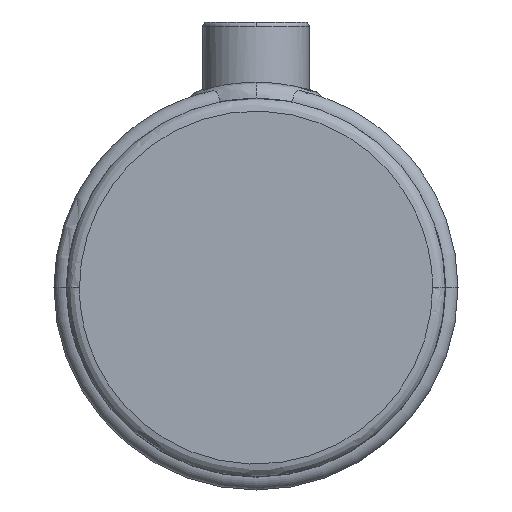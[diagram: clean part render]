
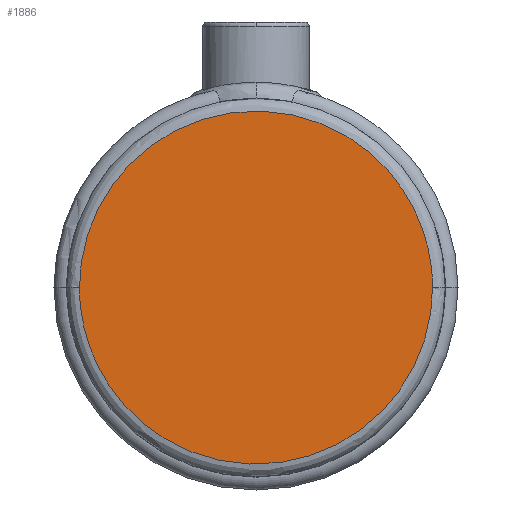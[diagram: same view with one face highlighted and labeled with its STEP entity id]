
A CAD part, top view. The second image highlights one B-rep face of the part: STEP entity #1886.
In plain terms, the highlighted planar face has unit normal (0, 0, 1).
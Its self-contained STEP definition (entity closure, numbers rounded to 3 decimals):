
#138 =( BOUNDED_CURVE ( )  B_SPLINE_CURVE ( 3, ( #1994, #10084, #6058, #1204 ),
 .UNSPECIFIED., .F., .T. ) 
 B_SPLINE_CURVE_WITH_KNOTS ( ( 4, 4 ),
 ( 0.25, 0.75 ),
 .UNSPECIFIED. ) 
 CURVE ( )  GEOMETRIC_REPRESENTATION_ITEM ( )  RATIONAL_B_SPLINE_CURVE ( ( 1., 0.333, 0.333, 1. ) ) 
 REPRESENTATION_ITEM ( '' )  );
#1019 = CARTESIAN_POINT ( 'NONE',  ( -41.45, 0., 50. ) ) ;
#1204 = CARTESIAN_POINT ( 'NONE',  ( -41.45, 0., 50. ) ) ;
#1553 = VERTEX_POINT ( 'NONE', #2760 ) ;
#1850 = CARTESIAN_POINT ( 'NONE',  ( 41.45, 82.9, 50. ) ) ;
#1886 = ADVANCED_FACE ( 'NONE', ( #8496 ), #7402, .T. ) ;
#1994 = CARTESIAN_POINT ( 'NONE',  ( 41.45, 0., 50. ) ) ;
#2568 = DIRECTION ( 'NONE',  ( 0., 0., 1. ) ) ;
#2760 = CARTESIAN_POINT ( 'NONE',  ( 41.45, 0., 50. ) ) ;
#4971 = CARTESIAN_POINT ( 'NONE',  ( 0., 22.225, 50. ) ) ;
#5448 = VERTEX_POINT ( 'NONE', #7231 ) ;
#5700 = ORIENTED_EDGE ( 'NONE', *, *, #8930, .F. ) ;
#5910 = ORIENTED_EDGE ( 'NONE', *, *, #9789, .F. ) ;
#5945 = AXIS2_PLACEMENT_3D ( 'NONE', #4971, #2568, #8206 ) ;
#6058 = CARTESIAN_POINT ( 'NONE',  ( -41.45, -82.9, 50. ) ) ;
#6135 =( BOUNDED_CURVE ( )  B_SPLINE_CURVE ( 3, ( #1019, #6689, #1850, #7500 ),
 .UNSPECIFIED., .F., .T. ) 
 B_SPLINE_CURVE_WITH_KNOTS ( ( 4, 4 ),
 ( 0.75, 1.25 ),
 .UNSPECIFIED. ) 
 CURVE ( )  GEOMETRIC_REPRESENTATION_ITEM ( )  RATIONAL_B_SPLINE_CURVE ( ( 1., 0.333, 0.333, 1. ) ) 
 REPRESENTATION_ITEM ( '' )  );
#6689 = CARTESIAN_POINT ( 'NONE',  ( -41.45, 82.9, 50. ) ) ;
#7231 = CARTESIAN_POINT ( 'NONE',  ( -41.45, 0., 50. ) ) ;
#7402 = PLANE ( 'NONE',  #5945 ) ;
#7500 = CARTESIAN_POINT ( 'NONE',  ( 41.45, 0., 50. ) ) ;
#8206 = DIRECTION ( 'NONE',  ( 0., -1., 0. ) ) ;
#8496 = FACE_OUTER_BOUND ( 'NONE', #8732, .T. ) ;
#8732 = EDGE_LOOP ( 'NONE', ( #5700, #5910 ) ) ;
#8930 = EDGE_CURVE ( 'NONE', #1553, #5448, #138, .T. ) ;
#9789 = EDGE_CURVE ( 'NONE', #5448, #1553, #6135, .T. ) ;
#10084 = CARTESIAN_POINT ( 'NONE',  ( 41.45, -82.9, 50. ) ) ;
